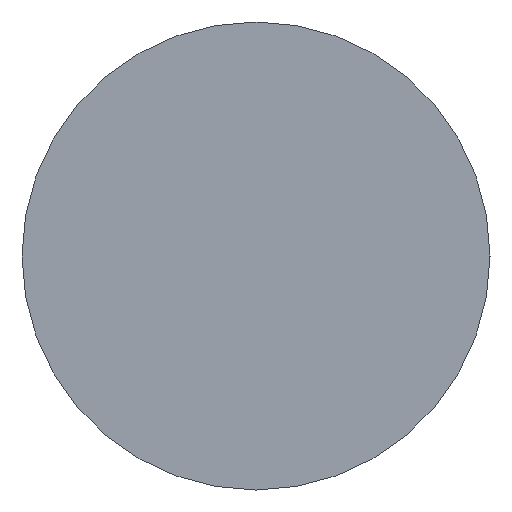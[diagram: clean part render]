
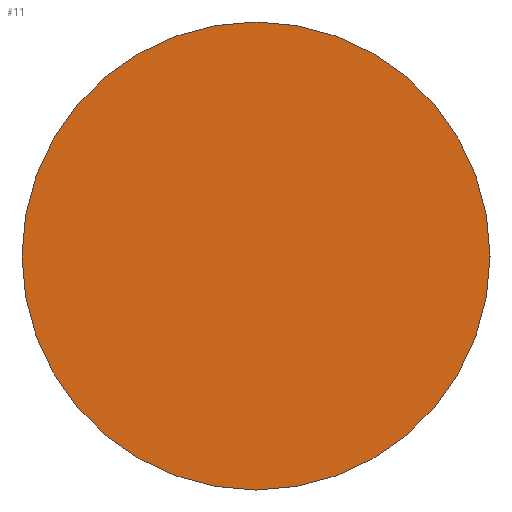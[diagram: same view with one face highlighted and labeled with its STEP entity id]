
A CAD part, left-side view. The second image highlights one B-rep face of the part: STEP entity #11.
In plain terms, the highlighted planar face has unit normal (-1, 0, 0).
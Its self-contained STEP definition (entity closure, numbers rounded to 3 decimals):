
#8 = EDGE_CURVE ( 'NONE', #340, #310, #88, .T. ) ;
#11 = ADVANCED_FACE ( 'NONE', ( #111 ), #112, .F. ) ;
#25 = EDGE_CURVE ( 'NONE', #310, #340, #201, .T. ) ;
#29 = EDGE_LOOP ( 'NONE', ( #120, #36 ) ) ;
#36 = ORIENTED_EDGE ( 'NONE', *, *, #25, .T. ) ;
#88 = CIRCLE ( 'NONE', #89, 10. ) ;
#89 = AXIS2_PLACEMENT_3D ( 'NONE', #90, #91, #92 ) ;
#90 = CARTESIAN_POINT ( 'NONE',  ( 0., 0., 0. ) ) ;
#91 = DIRECTION ( 'NONE',  ( -1., 0., 0. ) ) ;
#92 = DIRECTION ( 'NONE',  ( 0., 0., 1. ) ) ;
#111 = FACE_OUTER_BOUND ( 'NONE', #29, .T. ) ;
#112 = PLANE ( 'NONE',  #113 ) ;
#113 = AXIS2_PLACEMENT_3D ( 'NONE', #114, #115, #116 ) ;
#114 = CARTESIAN_POINT ( 'NONE',  ( 0., 0., 0. ) ) ;
#115 = DIRECTION ( 'NONE',  ( 1., 0., 0. ) ) ;
#116 = DIRECTION ( 'NONE',  ( 0., 0., -1. ) ) ;
#120 = ORIENTED_EDGE ( 'NONE', *, *, #8, .T. ) ;
#200 = CARTESIAN_POINT ( 'NONE',  ( 0., 0., -10. ) ) ;
#201 = CIRCLE ( 'NONE', #202, 10. ) ;
#202 = AXIS2_PLACEMENT_3D ( 'NONE', #203, #204, #205 ) ;
#203 = CARTESIAN_POINT ( 'NONE',  ( 0., 0., 0. ) ) ;
#204 = DIRECTION ( 'NONE',  ( -1., 0., 0. ) ) ;
#205 = DIRECTION ( 'NONE',  ( 0., 0., 1. ) ) ;
#219 = CARTESIAN_POINT ( 'NONE',  ( 0., 0., 10. ) ) ;
#310 = VERTEX_POINT ( 'NONE', #200 ) ;
#340 = VERTEX_POINT ( 'NONE', #219 ) ;
